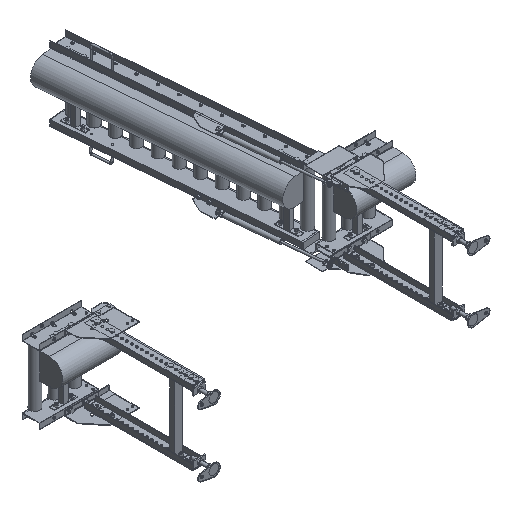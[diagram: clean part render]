
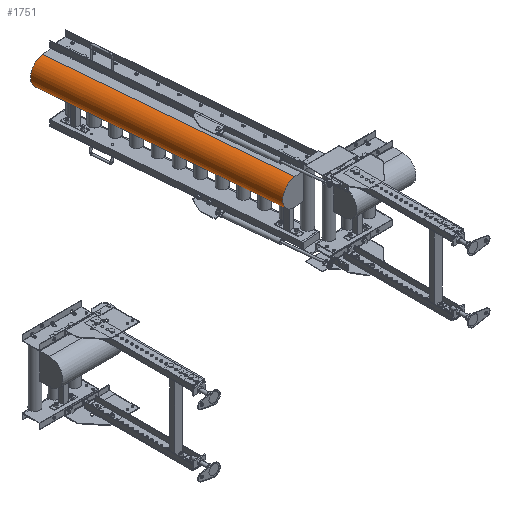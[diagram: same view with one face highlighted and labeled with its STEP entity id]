
A CAD part, isometric view. The second image highlights one B-rep face of the part: STEP entity #1751.
In plain terms, the highlighted cylindrical face has radius 66.89 mm (diameter 133.78 mm), a partial arc.
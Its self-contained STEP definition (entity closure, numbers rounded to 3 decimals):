
#1751=ADVANCED_FACE('',(#11998),#11997,.T.);
#11997=CYLINDRICAL_SURFACE('',#34588,66.89);
#11998=FACE_OUTER_BOUND('',#34589,.T.);
#34585=CARTESIAN_POINT('',(-71.797,-158.438,92.61));
#34586=DIRECTION('',(0.087,-0.996,0.));
#34587=DIRECTION('',(0.,0.,-1.));
#34588=AXIS2_PLACEMENT_3D('',#34585,#34586,#34587);
#34589=EDGE_LOOP('',(#48666,#48667,#48668,#48669));
#48666=ORIENTED_EDGE('',*,*,#59807,.F.);
#48667=ORIENTED_EDGE('',*,*,#59808,.T.);
#48668=ORIENTED_EDGE('',*,*,#59788,.T.);
#48669=ORIENTED_EDGE('',*,*,#59806,.F.);
#59788=EDGE_CURVE('',#79006,#79020,#79027,.T.);
#59806=EDGE_CURVE('',#79142,#79020,#79149,.T.);
#59807=EDGE_CURVE('',#79155,#79142,#79156,.T.);
#59808=EDGE_CURVE('',#79155,#79006,#79162,.T.);
#79006=VERTEX_POINT('',#117143);
#79020=VERTEX_POINT('',#117151);
#79027=CIRCLE('',#117158,66.89);
#79142=VERTEX_POINT('',#117220);
#79149=LINE('',#117224,#117225);
#79155=VERTEX_POINT('',#117227);
#79156=CIRCLE('',#117231,66.89);
#79162=LINE('',#117232,#117233);
#117143=CARTESIAN_POINT('',(-190.216,1196.047,159.5));
#117151=CARTESIAN_POINT('',(-190.216,1196.047,25.72));
#117155=CARTESIAN_POINT('',(-190.216,1196.047,92.61));
#117156=DIRECTION('',(0.087,-0.996,0.));
#117157=DIRECTION('',(0.,0.,-1.));
#117158=AXIS2_PLACEMENT_3D('',#117155,#117156,#117157);
#117220=CARTESIAN_POINT('',(-87.269,18.539,25.72));
#117224=CARTESIAN_POINT('',(-87.269,18.539,25.72));
#117225=VECTOR('',#117226,1182.);
#117226=DIRECTION('',(-0.087,0.996,0.));
#117227=CARTESIAN_POINT('',(-87.269,18.539,159.5));
#117228=CARTESIAN_POINT('',(-87.269,18.539,92.61));
#117229=DIRECTION('',(0.087,-0.996,0.));
#117230=DIRECTION('',(0.,0.,1.));
#117231=AXIS2_PLACEMENT_3D('',#117228,#117229,#117230);
#117232=CARTESIAN_POINT('',(-87.269,18.539,159.5));
#117233=VECTOR('',#117234,1182.);
#117234=DIRECTION('',(-0.087,0.996,0.));
